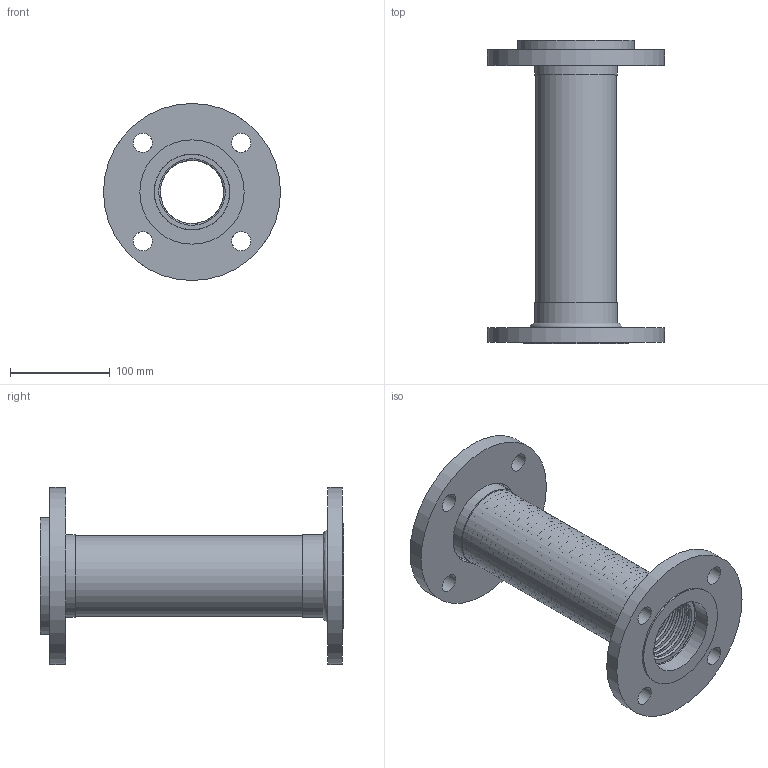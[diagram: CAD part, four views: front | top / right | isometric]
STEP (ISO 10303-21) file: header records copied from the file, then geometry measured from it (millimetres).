
FILE_DESCRIPTION((''),'2;1');
FILE_NAME('C:\2012_Work\Designs\FFLSS\2.5in_FFLSS_A-30358-3\FFLSS-2.5x12in.stp','2013-08-26T11:16:38',('KShiels'),(''),'Autodesk Inventor 2012','Autodesk Inventor 2012','');
FILE_SCHEMA(('AUTOMOTIVE_DESIGN { 1 0 10303 214 1 1 1 1 }'));
Length unit declared in the file: inch
Products named in the file (8): FFLSS-2; FFLSS-2_Welds; A-30358-3_2; A-30354-2_2; A-30355-1_2; A-30356-2_2
Assembly tree (8 placements, depth 2):
  FFLSS-2
    FFLSS-2_Welds
    A-30358-3_2
    A-30358-3_2
    A-30358-3_2  x2
    A-30354-2_2
    A-30355-1_2
    A-30356-2_2
Bounding box: 177.8 x 304.8 x 177.8 mm (x, y, z)
Volume: 736597.5 mm3; surface area: 681969.8 mm2
Topology: 9 solids, 9 shells, 397 faces, 627 edges, 423 vertices
Faces by surface type: plane 193, torus 178, cylinder 23, bspline 2, cone 1
Full cylindrical faces by diameter (mm): 19.05 x8, 76.2 x2, 79.756 x1, 80.569 x3, 82.95 x4, 87.313 x1, 104.775 x1, 117.475 x1, 177.8 x2
Entity records: 8874 total; most frequent: CARTESIAN_POINT 1801, DIRECTION 1608, ORIENTED_EDGE 814, AXIS2_PLACEMENT_3D 804, EDGE_LOOP 800, EDGE_CURVE 407, FACE_BOUND 407, VERTEX_POINT 405
